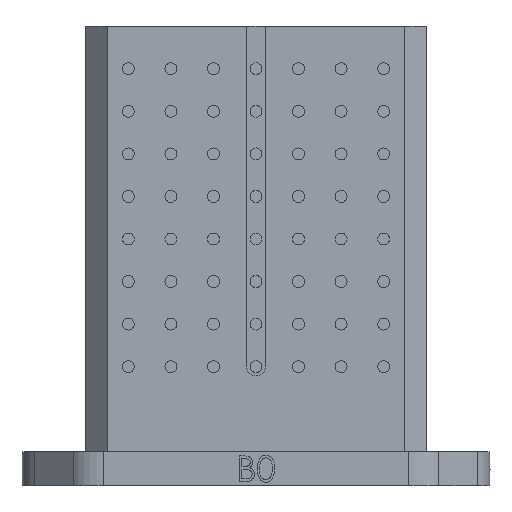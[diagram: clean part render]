
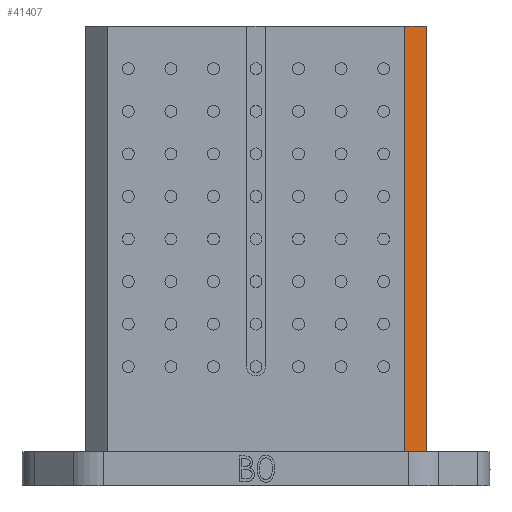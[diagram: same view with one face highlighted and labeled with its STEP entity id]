
A CAD part, front view. The second image highlights one B-rep face of the part: STEP entity #41407.
In plain terms, the highlighted planar face has unit normal (0.707, -0.707, 0).
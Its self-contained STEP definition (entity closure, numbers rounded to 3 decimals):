
#943=CARTESIAN_POINT('',(175.,-200.,540.0));
#944=VERTEX_POINT('',#943);
#951=CARTESIAN_POINT('',(200.,-175.,540.0));
#952=VERTEX_POINT('',#951);
#953=CARTESIAN_POINT('',(175.,-200.,540.0));
#954=DIRECTION('',(0.707,0.707,0.0));
#955=VECTOR('',#954,1.);
#956=LINE('',#953,#955);
#957=EDGE_CURVE('',#944,#952,#956,.T.);
#6257=CARTESIAN_POINT('',(175.,-200.0,40.0));
#6258=VERTEX_POINT('',#6257);
#6305=CARTESIAN_POINT('',(200.0,-175.,40.0));
#6306=VERTEX_POINT('',#6305);
#6313=CARTESIAN_POINT('',(200.0,-175.,40.0));
#6314=DIRECTION('',(-0.707,-0.707,0.0));
#6315=VECTOR('',#6314,1.);
#6316=LINE('',#6313,#6315);
#6317=EDGE_CURVE('',#6306,#6258,#6316,.T.);
#7274=CARTESIAN_POINT('',(175.,-200.0,80.0));
#7275=DIRECTION('',(0.0,0.0,1.0));
#7276=VECTOR('',#7275,1.0);
#7277=LINE('',#7274,#7276);
#7278=EDGE_CURVE('',#6258,#944,#7277,.T.);
#7848=CARTESIAN_POINT('',(200.,-175.,540.0));
#7849=DIRECTION('',(0.0,0.0,-1.0));
#7850=VECTOR('',#7849,1.0);
#7851=LINE('',#7848,#7850);
#7852=EDGE_CURVE('',#952,#6306,#7851,.T.);
#41396=CARTESIAN_POINT('',(201.25,-173.75,563.0));
#41397=DIRECTION('',(-0.707,0.707,0.0));
#41398=DIRECTION('',(0.0,0.0,-1.0));
#41399=AXIS2_PLACEMENT_3D('',#41396,#41397,#41398);
#41400=PLANE('',#41399);
#41401=ORIENTED_EDGE('',*,*,#957,.F.);
#41402=ORIENTED_EDGE('',*,*,#7278,.F.);
#41403=ORIENTED_EDGE('',*,*,#6317,.F.);
#41404=ORIENTED_EDGE('',*,*,#7852,.F.);
#41405=EDGE_LOOP('',(#41401,#41402,#41403,#41404));
#41406=FACE_OUTER_BOUND('',#41405,.T.);
#41407=ADVANCED_FACE('',(#41406),#41400,.F.);
